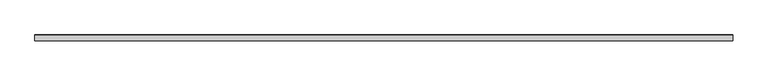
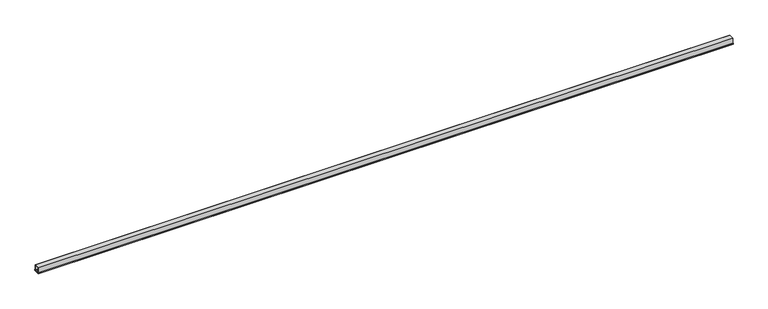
"""IFC4 building model written with IfcOpenShell, lengths in millimetres: light fixture geometry, 20207_レースウェイ : 45型×w40."""

from ifc_helpers import new_model, si_unit, frame, origin, place, context, project, spatial, polyline, outline, extrude, source, transform, mapped, element, save


def light_fixture_5c87204b(model_context):
    return source(origin(), model_context, "Body", "SweptSolid", [
        extrude(outline(polyline([(-21.7, 8.2), (-20.5, 8.2), (-20.5, 1.2), (20.5, 1.2), (20.5, 8.2), (21.7, 8.2), (21.7, 0.0), (-21.7, 0.0), (-21.7, 8.2)])), frame((-2548.3291714, 0.0, 0.0), z_axis=(1.0, 0.0, 0.0), x_axis=(0.0, 1.0, 0.0)), (0.0, 0.0, 1.0), 5096.6583429),
        extrude(outline(polyline([(-20.0, 46.2), (20.0, 46.2), (20.0, 1.2), (18.4, 1.2), (10.0, 11.2), (11.2251278, 12.2291073), (18.4, 3.6875928), (18.4, 44.6), (-18.4, 44.6), (-18.4, 3.6875928), (-11.2251278, 12.2291073), (-10.0, 11.2), (-18.4, 1.2), (-20.0, 1.2), (-20.0, 46.2)])), frame((-2548.3291714, 0.0, 0.0), z_axis=(1.0, 0.0, 0.0), x_axis=(0.0, 1.0, 0.0)), (0.0, 0.0, 1.0), 5096.6583429),
    ])


if __name__ == "__main__":
    model = new_model("IFC4")
    model_context = context("Model", 3, world=origin())
    ifc_project = project(units=[si_unit("LENGTHUNIT", "METRE", prefix="MILLI")], contexts=[model_context])
    site = spatial("IfcSite", under=ifc_project)
    building = spatial("IfcBuilding", under=site)
    placement = place(None, origin())
    light_fixture_shape = light_fixture_5c87204b(model_context)
    element("IfcLightFixture", 1, ObjectType="20207_レースウェイ : 45型×w40", at=placement, inside=building, context=model_context, shape_type="MappedRepresentation", body=[
        mapped(light_fixture_shape, transform((0.0, 0.0, 0.0), x_axis=(1.0, 0.0, 0.0), y_axis=(0.0, 1.0, 0.0), z_axis=(0.0, 0.0, 1.0))),
    ])
    save(model, "model.ifc")
